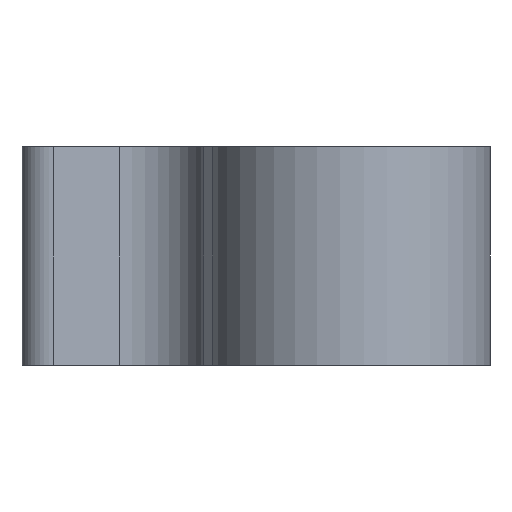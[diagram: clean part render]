
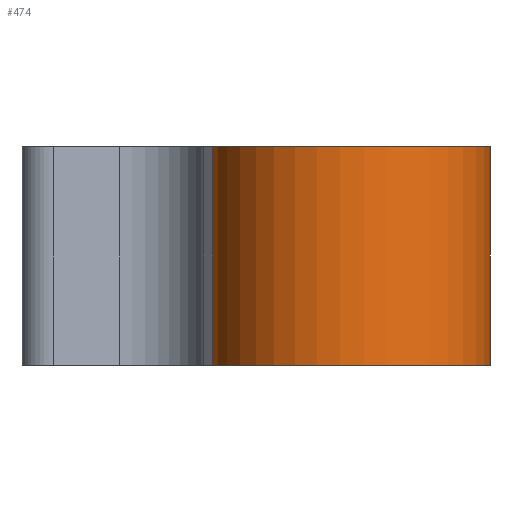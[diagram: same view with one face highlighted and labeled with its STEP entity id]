
A CAD part, left-side view. The second image highlights one B-rep face of the part: STEP entity #474.
In plain terms, the highlighted cylindrical face has radius 6 mm (diameter 12 mm), a partial arc.
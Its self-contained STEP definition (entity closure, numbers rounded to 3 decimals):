
#123=CARTESIAN_POINT('',(-62.882,56.311,4.7));
#124=VERTEX_POINT('',#123);
#127=CARTESIAN_POINT('',(-62.026,50.372,4.7));
#128=DIRECTION('',(0.,0.,1.));
#129=DIRECTION('',(1.,0.,0.));
#130=AXIS2_PLACEMENT_3D('',#127,#128,#129);
#131=CIRCLE('',#130,6.);
#132=CARTESIAN_POINT('',(-58.059,45.871,4.7));
#133=VERTEX_POINT('',#132);
#134=EDGE_CURVE('',#133,#124,#131,.F.);
#259=CARTESIAN_POINT('',(-58.059,45.871,-4.7));
#260=VERTEX_POINT('',#259);
#263=CARTESIAN_POINT('',(-62.026,50.372,-4.7));
#264=DIRECTION('',(0.,0.,1.));
#265=DIRECTION('',(1.,0.,0.));
#266=AXIS2_PLACEMENT_3D('',#263,#264,#265);
#267=CIRCLE('',#266,6.);
#268=CARTESIAN_POINT('',(-62.882,56.311,-4.7));
#269=VERTEX_POINT('',#268);
#270=EDGE_CURVE('',#269,#260,#267,.T.);
#449=CARTESIAN_POINT('',(-62.882,56.311,-43.406));
#450=DIRECTION('',(0.,0.,1.));
#451=VECTOR('',#450,1.);
#452=LINE('',#449,#451);
#453=EDGE_CURVE('',#124,#269,#452,.F.);
#458=CARTESIAN_POINT('',(-62.026,50.372,-43.406));
#459=DIRECTION('',(0.,0.,1.));
#460=DIRECTION('',(1.,0.,0.));
#461=AXIS2_PLACEMENT_3D('',#458,#459,#460);
#462=CYLINDRICAL_SURFACE('',#461,6.);
#463=CARTESIAN_POINT('',(-58.059,45.871,-43.406));
#464=DIRECTION('',(0.,0.,1.));
#465=VECTOR('',#464,1.);
#466=LINE('',#463,#465);
#467=EDGE_CURVE('',#260,#133,#466,.T.);
#468=ORIENTED_EDGE('',*,*,#467,.T.);
#469=ORIENTED_EDGE('',*,*,#134,.T.);
#470=ORIENTED_EDGE('',*,*,#453,.T.);
#471=ORIENTED_EDGE('',*,*,#270,.T.);
#472=EDGE_LOOP('',(#468,#469,#470,#471));
#473=FACE_OUTER_BOUND('',#472,.T.);
#474=ADVANCED_FACE('',(#473),#462,.T.);
